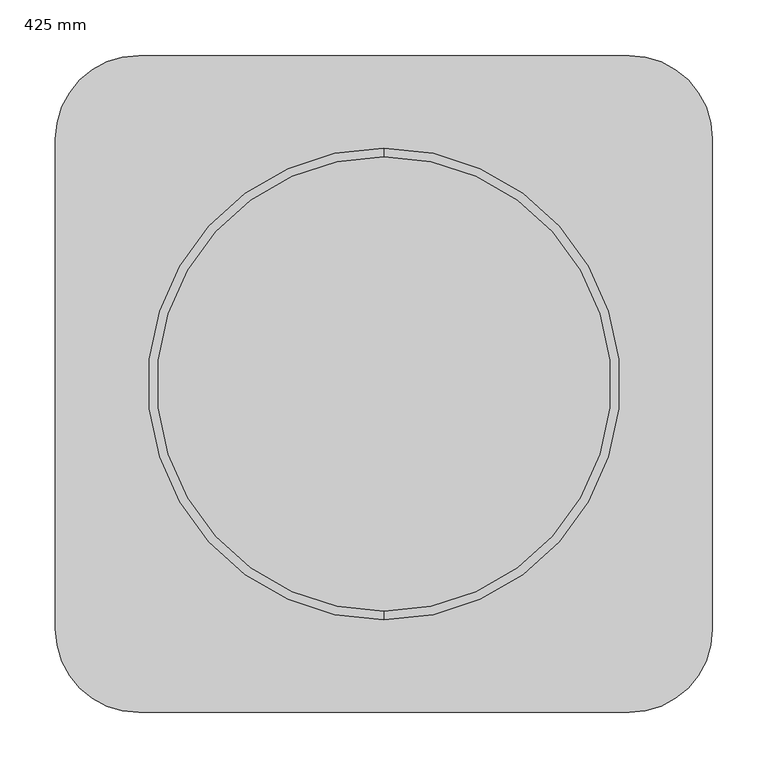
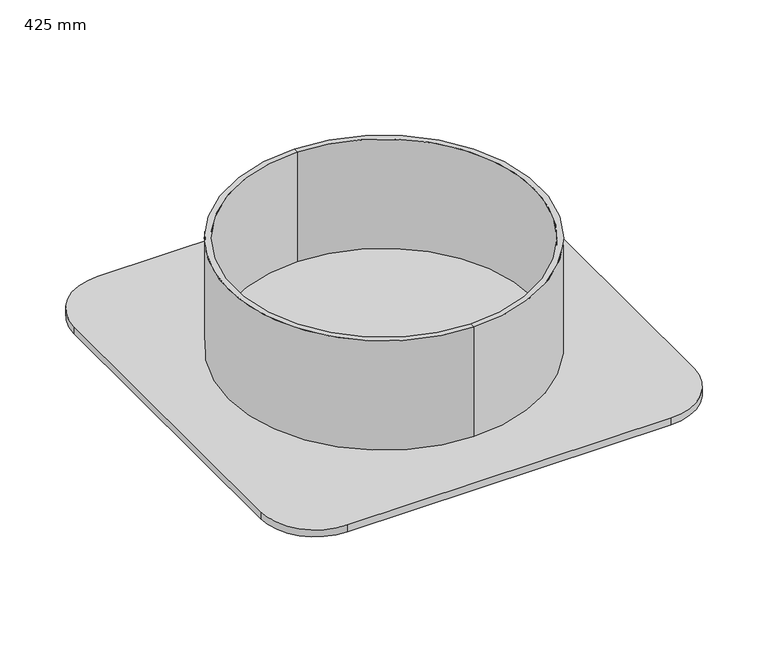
"""IFC4 building model written with IfcOpenShell, lengths in millimetres: unitary equipment geometry, Z_ME_UN_Aquacell_NG_Kit_Shaft_Connector_Wavin_(nested) : 425 mm."""

from ifc_helpers import new_model, si_unit, point, frame, frame_2d, origin, origin_with_axes, place, context, project, spatial, polyline, circle_curve, trimmed, segment, composite_curve, outline, extrude, source, transform, mapped, element, save
from ifc_brep_helpers import plane_surface, cylinder_surface, revolved_surface, advanced_brep


def unitary_equipment_425_mm_c4a4c188(model_context):
    return source(origin(), model_context, "Body", "SolidModel", [
        advanced_brep(
        [(-117.3, 0.0, -100.0), (117.3, 0.0, -100.0), (117.3, 0.0, 0.0), (-117.3, 0.0, 0.0), (-125.0, 0.0, -100.0), (125.0, 0.0, -100.0), (-125.0, 0.0, 0.0), (125.0, 0.0, 0.0)],
        [
            (0, 1, circle_curve(frame((0.0, 0.0, -100.0), z_axis=(0.0, 0.0, -1.0), x_axis=(1.0, 0.0, 0.0)), 117.3)),
            (1, 2),
            (2, 3, circle_curve(origin_with_axes(), 117.3)),
            (3, 0),
            (1, 0, circle_curve(frame((0.0, 0.0, -100.0), z_axis=(0.0, 0.0, -1.0), x_axis=(1.0, 0.0, 0.0)), 117.3)),
            (3, 2, circle_curve(origin_with_axes(), 117.3)),
            (4, 5, circle_curve(frame((0.0, 0.0, -100.0), z_axis=(0.0, 0.0, -1.0), x_axis=(1.0, 0.0, 0.0)), 125.0)),
            (5, 1),
            (0, 4),
            (5, 4, circle_curve(frame((0.0, 0.0, -100.0), z_axis=(0.0, 0.0, -1.0), x_axis=(1.0, 0.0, 0.0)), 125.0)),
            (6, 7, circle_curve(frame((0.0, 0.0, 0.0), z_axis=(0.0, 0.0, -1.0), x_axis=(1.0, 0.0, 0.0)), 125.0)),
            (7, 5),
            (4, 6),
            (7, 6, circle_curve(frame((0.0, 0.0, 0.0), z_axis=(0.0, 0.0, -1.0), x_axis=(1.0, 0.0, 0.0)), 125.0)),
            (2, 7),
            (6, 3),
        ],
        [
            revolved_surface(polyline([(117.3, 0.0, 0.0), (117.3, 0.0, -100.0)]), (0.0, 0.0, -381.0), (0.0, 0.0, 1.0)),
            plane_surface(frame((0.0, 0.0, -100.0), z_axis=(0.0, 0.0, -1.0), x_axis=(1.0, 0.0, 0.0))),
            cylinder_surface(frame((0.0, 0.0, -381.0), z_axis=(0.0, 0.0, 1.0), x_axis=(1.0, 0.0, 0.0)), 125.0),
            plane_surface(origin_with_axes()),
        ],
        [
            (0, [[1, 2, 3, 4]]),
            (0, [[5, -4, 6, -2]]),
            (1, [[7, 8, -1, 9]]),
            (1, [[10, -9, -5, -8]]),
            (2, [[11, 12, -7, 13]]),
            (2, [[14, -13, -10, -12]]),
            (3, [[-3, 15, -11, 16]]),
            (3, [[-6, -16, -14, -15]]),
        ],
    ),
        advanced_brep(
        [(0.0, -204.8, 10.0), (0.0, 204.8, 10.0), (0.0, 204.8, 168.0), (0.0, -204.8, 168.0), (0.0, -212.5, 10.0), (0.0, 212.5, 10.0), (0.0, -212.5, 168.0), (0.0, 212.5, 168.0)],
        [
            (0, 1, circle_curve(frame((0.0, 0.0, 10.0), z_axis=(0.0, 0.0, -1.0), x_axis=(0.0, 1.0, 0.0)), 204.8)),
            (1, 2),
            (2, 3, circle_curve(frame((0.0, 0.0, 168.0), z_axis=(0.0, 0.0, 1.0), x_axis=(0.0, 1.0, 0.0)), 204.8)),
            (3, 0),
            (1, 0, circle_curve(frame((0.0, 0.0, 10.0), z_axis=(0.0, 0.0, -1.0), x_axis=(0.0, 1.0, 0.0)), 204.8)),
            (3, 2, circle_curve(frame((0.0, 0.0, 168.0), z_axis=(0.0, 0.0, 1.0), x_axis=(0.0, 1.0, 0.0)), 204.8)),
            (4, 5, circle_curve(frame((0.0, 0.0, 10.0), z_axis=(0.0, 0.0, -1.0), x_axis=(0.0, 1.0, 0.0)), 212.5)),
            (5, 1),
            (0, 4),
            (5, 4, circle_curve(frame((0.0, 0.0, 10.0), z_axis=(0.0, 0.0, -1.0), x_axis=(0.0, 1.0, 0.0)), 212.5)),
            (6, 7, circle_curve(frame((0.0, 0.0, 168.0), z_axis=(0.0, 0.0, -1.0), x_axis=(0.0, 1.0, 0.0)), 212.5)),
            (7, 5),
            (4, 6),
            (7, 6, circle_curve(frame((0.0, 0.0, 168.0), z_axis=(0.0, 0.0, -1.0), x_axis=(0.0, 1.0, 0.0)), 212.5)),
            (2, 7),
            (6, 3),
        ],
        [
            revolved_surface(polyline([(0.0, 204.8, 168.0), (0.0, 204.8, 10.0)]), (0.0, 0.0, 2741.4742198), (0.0, 0.0, 1.0)),
            plane_surface(frame((0.0, 0.0, 10.0), z_axis=(0.0, 0.0, -1.0), x_axis=(0.0, 1.0, 0.0))),
            cylinder_surface(frame((0.0, 0.0, 2741.4742198), z_axis=(0.0, 0.0, 1.0), x_axis=(0.0, 1.0, 0.0)), 212.5),
            plane_surface(frame((0.0, 0.0, 168.0), z_axis=(0.0, 0.0, 1.0), x_axis=(0.0, 1.0, 0.0))),
        ],
        [
            (0, [[1, 2, 3, 4]]),
            (0, [[5, -4, 6, -2]]),
            (1, [[7, 8, -1, 9]]),
            (1, [[10, -9, -5, -8]]),
            (2, [[11, 12, -7, 13]]),
            (2, [[14, -13, -10, -12]]),
            (3, [[-3, 15, -11, 16]]),
            (3, [[-6, -16, -14, -15]]),
        ],
    ),
        extrude(outline(composite_curve([segment(trimmed(circle_curve(frame_2d((221.0, 221.0)), 75.0), [point((221.0, 296.0))], [point((296.0, 221.0))], False, "CARTESIAN"), True, "CONTINUOUS"), segment(polyline([(296.0, 221.0), (296.0, -221.0)]), True, "CONTINUOUS"), segment(trimmed(circle_curve(frame_2d((221.0, -221.0)), 75.0), [point((296.0, -221.0))], [point((221.0, -296.0))], False, "CARTESIAN"), True, "CONTINUOUS"), segment(polyline([(221.0, -296.0), (-221.0, -296.0)]), True, "CONTINUOUS"), segment(trimmed(circle_curve(frame_2d((-221.0, -221.0)), 75.0), [point((-221.0, -296.0))], [point((-296.0, -221.0))], False, "CARTESIAN"), True, "CONTINUOUS"), segment(polyline([(-296.0, -221.0), (-296.0, 221.0)]), True, "CONTINUOUS"), segment(trimmed(circle_curve(frame_2d((-221.0, 221.0)), 75.0), [point((-296.0, 221.0))], [point((-221.0, 296.0))], False, "CARTESIAN"), True, "CONTINUOUS"), segment(polyline([(-221.0, 296.0), (221.0, 296.0)]), True, "CONTINUOUS")], self_intersect=False)), origin_with_axes(), (0.0, 0.0, 1.0), 10.0),
    ])


if __name__ == "__main__":
    model = new_model("IFC4")
    model_context = context("Model", 3, world=origin())
    ifc_project = project(units=[si_unit("LENGTHUNIT", "METRE", prefix="MILLI")], contexts=[model_context])
    site = spatial("IfcSite", under=ifc_project)
    building = spatial("IfcBuilding", under=site)
    placement = place(None, origin())
    unitary_equipment_425_mm_shape = unitary_equipment_425_mm_c4a4c188(model_context)
    element("IfcUnitaryEquipment", 1, ObjectType="Z_ME_UN_Aquacell_NG_Kit_Shaft_Connector_Wavin_(nested) : 425 mm", at=placement, inside=building, context=model_context, shape_type="MappedRepresentation", body=[
        mapped(unitary_equipment_425_mm_shape, transform((0.0, 0.0, 0.0), x_axis=(1.0, 0.0, 0.0), y_axis=(0.0, 1.0, 0.0), z_axis=(0.0, 0.0, 1.0))),
    ])
    save(model, "model.ifc")
